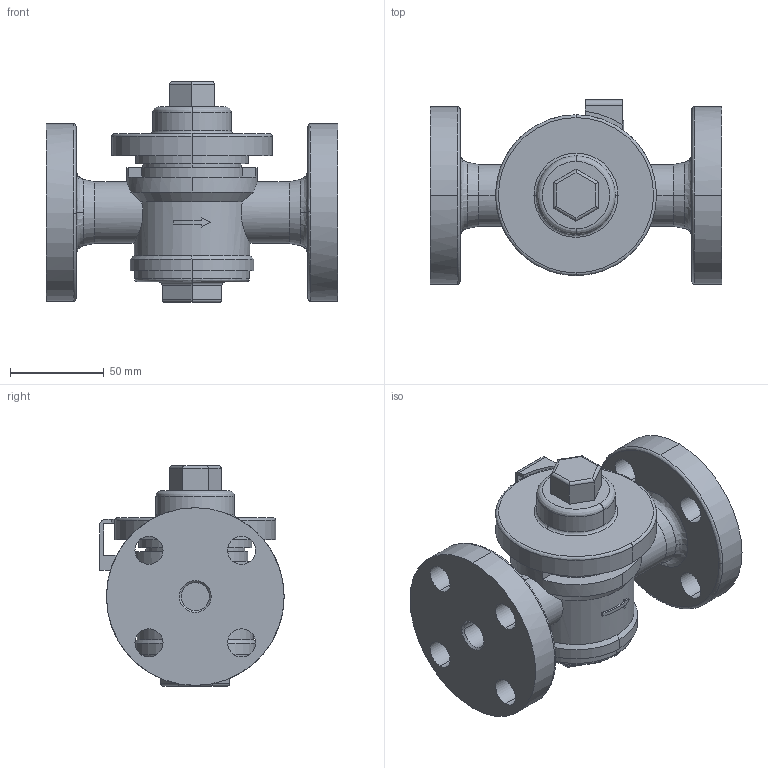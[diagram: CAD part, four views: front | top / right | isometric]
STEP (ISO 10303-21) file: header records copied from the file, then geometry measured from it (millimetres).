
FILE_DESCRIPTION( (''), '2;1');
FILE_NAME ('PC1027.12188.TS-8 15A_29957.stp','2025-07-31T15:59:47',(''),(''),'spGate 20.6.3 (****-****-****-****)','','');
FILE_SCHEMA (('AUTOMOTIVE_DESIGN'));
Length unit declared in the file: millimetre
Products named in the file (2): Assembly; TS-8 15A
Assembly tree (1 placements, depth 2):
  Assembly
    TS-8 15A
Bounding box: 156 x 98.5 x 118 mm (x, y, z)
Volume: 585628.7 mm3; surface area: 82577.2 mm2
Topology: 1 solids, 1 shells, 143 faces, 363 edges, 232 vertices
Faces by surface type: cylinder 68, plane 46, bspline 29
Entity records: 7846 total; most frequent: CARTESIAN_POINT 1700, ORIENTED_EDGE 722, DIRECTION 629, COLOUR_RGB 505, PRESENTATION_STYLE_ASSIGNMENT 505, STYLED_ITEM 505, EDGE_CURVE 361, DRAUGHTING_PRE_DEFINED_CURVE_FONT 361
